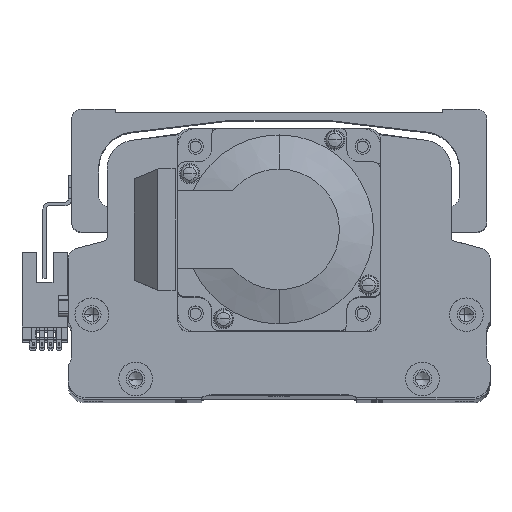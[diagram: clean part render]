
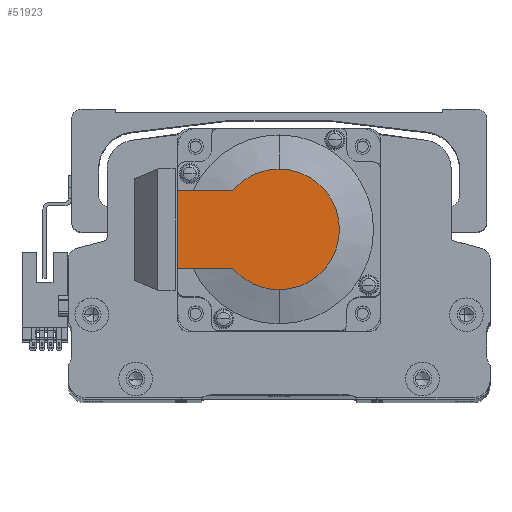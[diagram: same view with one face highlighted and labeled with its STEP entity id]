
A CAD part, top view. The second image highlights one B-rep face of the part: STEP entity #51923.
In plain terms, the highlighted planar face has unit normal (0, 0, 1) as drawn and (-1, 0, 0) by its records, which use the part's own axes.
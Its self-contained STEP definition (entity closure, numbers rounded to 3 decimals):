
#175 = CARTESIAN_POINT ( 'NONE',  ( -118.5, -8.941, 0. ) ) ;
#1174 = DIRECTION ( 'NONE',  ( -1., 0., 0. ) ) ;
#3163 = CARTESIAN_POINT ( 'NONE',  ( -118.5, 0., 11.45 ) ) ;
#3285 = DIRECTION ( 'NONE',  ( -1., 0., 0. ) ) ;
#3418 = VERTEX_POINT ( 'NONE', #11528 ) ;
#4549 = DIRECTION ( 'NONE',  ( 0., 0., 1. ) ) ;
#6114 = CIRCLE ( 'NONE', #48857, 17.881 ) ;
#6218 = LINE ( 'NONE', #3163, #30317 ) ;
#8749 = CARTESIAN_POINT ( 'NONE',  ( -118.5, 0., 0. ) ) ;
#11528 = CARTESIAN_POINT ( 'NONE',  ( -118.5, 30., -11.45 ) ) ;
#11573 = ORIENTED_EDGE ( 'NONE', *, *, #32672, .F. ) ;
#12227 = VECTOR ( 'NONE', #17851, 1000. ) ;
#13057 = DIRECTION ( 'NONE',  ( 0., 0., -1. ) ) ;
#13777 = EDGE_CURVE ( 'NONE', #38610, #28366, #34571, .T. ) ;
#16646 = FACE_OUTER_BOUND ( 'NONE', #34346, .T. ) ;
#17639 = DIRECTION ( 'NONE',  ( 0., 0., 1. ) ) ;
#17851 = DIRECTION ( 'NONE',  ( 0., -1., 0. ) ) ;
#17908 = AXIS2_PLACEMENT_3D ( 'NONE', #175, #30186, #4549 ) ;
#18070 = ORIENTED_EDGE ( 'NONE', *, *, #45324, .T. ) ;
#18911 = CARTESIAN_POINT ( 'NONE',  ( -118.5, 13.735, 11.45 ) ) ;
#19044 = CIRCLE ( 'NONE', #31490, 17.881 ) ;
#26903 = CARTESIAN_POINT ( 'NONE',  ( -118.5, 0., 0. ) ) ;
#28366 = VERTEX_POINT ( 'NONE', #18911 ) ;
#28949 = CARTESIAN_POINT ( 'NONE',  ( -118.5, 0., 0. ) ) ;
#30186 = DIRECTION ( 'NONE',  ( -1., 0., 0. ) ) ;
#30317 = VECTOR ( 'NONE', #50327, 1000. ) ;
#30520 = VECTOR ( 'NONE', #17639, 1000. ) ;
#30769 = VERTEX_POINT ( 'NONE', #32799 ) ;
#31165 = DIRECTION ( 'NONE',  ( 0., 0., -1. ) ) ;
#31490 = AXIS2_PLACEMENT_3D ( 'NONE', #8749, #38680, #13057 ) ;
#32132 = CARTESIAN_POINT ( 'NONE',  ( -118.5, 30., 11.45 ) ) ;
#32595 = ORIENTED_EDGE ( 'NONE', *, *, #41046, .T. ) ;
#32672 = EDGE_CURVE ( 'NONE', #3418, #37597, #43267, .T. ) ;
#32799 = CARTESIAN_POINT ( 'NONE',  ( -118.5, 13.735, -11.45 ) ) ;
#33269 = DIRECTION ( 'NONE',  ( 0., 0., -1. ) ) ;
#34346 = EDGE_LOOP ( 'NONE', ( #39905, #18070, #32595, #50291, #49709, #11573 ) ) ;
#34571 = CIRCLE ( 'NONE', #43601, 17.881 ) ;
#34982 = LINE ( 'NONE', #43476, #12227 ) ;
#37597 = VERTEX_POINT ( 'NONE', #32132 ) ;
#38610 = VERTEX_POINT ( 'NONE', #49395 ) ;
#38620 = PLANE ( 'NONE',  #17908 ) ;
#38680 = DIRECTION ( 'NONE',  ( -1., 0., 0. ) ) ;
#39905 = ORIENTED_EDGE ( 'NONE', *, *, #50229, .T. ) ;
#40406 = EDGE_CURVE ( 'NONE', #37597, #28366, #6218, .T. ) ;
#41046 = EDGE_CURVE ( 'NONE', #41584, #38610, #6114, .T. ) ;
#41584 = VERTEX_POINT ( 'NONE', #50037 ) ;
#43267 = LINE ( 'NONE', #47546, #30520 ) ;
#43476 = CARTESIAN_POINT ( 'NONE',  ( -118.5, -8.941, -11.45 ) ) ;
#43601 = AXIS2_PLACEMENT_3D ( 'NONE', #26903, #1174, #31165 ) ;
#45324 = EDGE_CURVE ( 'NONE', #30769, #41584, #19044, .T. ) ;
#47546 = CARTESIAN_POINT ( 'NONE',  ( -118.5, 30., 25. ) ) ;
#48857 = AXIS2_PLACEMENT_3D ( 'NONE', #28949, #3285, #33269 ) ;
#49395 = CARTESIAN_POINT ( 'NONE',  ( -118.5, 0., 17.881 ) ) ;
#49709 = ORIENTED_EDGE ( 'NONE', *, *, #40406, .F. ) ;
#50037 = CARTESIAN_POINT ( 'NONE',  ( -118.5, 0., -17.881 ) ) ;
#50229 = EDGE_CURVE ( 'NONE', #3418, #30769, #34982, .T. ) ;
#50291 = ORIENTED_EDGE ( 'NONE', *, *, #13777, .T. ) ;
#50327 = DIRECTION ( 'NONE',  ( 0., -1., 0. ) ) ;
#51923 = ADVANCED_FACE ( 'NONE', ( #16646 ), #38620, .T. ) ;
